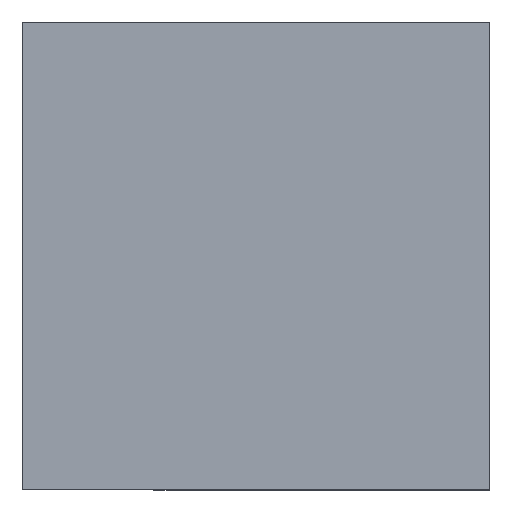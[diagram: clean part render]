
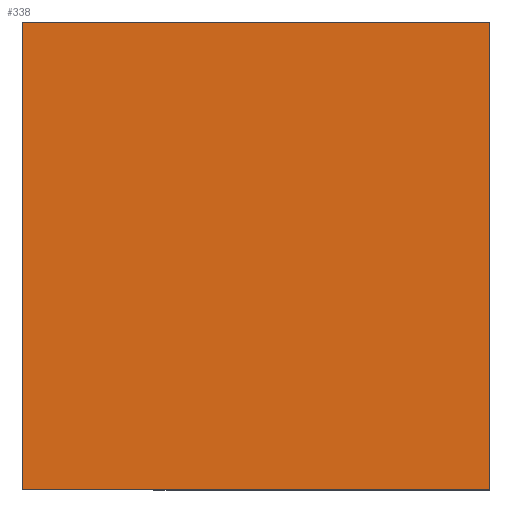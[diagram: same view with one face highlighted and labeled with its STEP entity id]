
A CAD part, top view. The second image highlights one B-rep face of the part: STEP entity #338.
In plain terms, the highlighted planar face has unit normal (0, 0, 1).
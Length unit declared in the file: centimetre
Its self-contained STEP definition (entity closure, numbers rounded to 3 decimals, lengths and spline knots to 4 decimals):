
#7 = CARTESIAN_POINT ( 'NONE',  ( 0., 1000., 1000. ) ) ;
#13 = CARTESIAN_POINT ( 'NONE',  ( 0., 1000., 1000. ) ) ;
#33 = AXIS2_PLACEMENT_3D ( 'NONE', #328, #168, #291 ) ;
#40 = LINE ( 'NONE', #13, #317 ) ;
#51 = CARTESIAN_POINT ( 'NONE',  ( 1000., 1000., 1000. ) ) ;
#59 = VECTOR ( 'NONE', #183, 100. ) ;
#70 = CARTESIAN_POINT ( 'NONE',  ( 1000., 0., 1000. ) ) ;
#83 = LINE ( 'NONE', #214, #59 ) ;
#107 = VECTOR ( 'NONE', #135, 100. ) ;
#111 = EDGE_LOOP ( 'NONE', ( #302, #313, #190, #149 ) ) ;
#135 = DIRECTION ( 'NONE',  ( 0., 1., 0. ) ) ;
#149 = ORIENTED_EDGE ( 'NONE', *, *, #194, .T. ) ;
#168 = DIRECTION ( 'NONE',  ( 0., 0., 1. ) ) ;
#170 = PLANE ( 'NONE',  #33 ) ;
#183 = DIRECTION ( 'NONE',  ( -1., 0., 0. ) ) ;
#190 = ORIENTED_EDGE ( 'NONE', *, *, #283, .T. ) ;
#194 = EDGE_CURVE ( 'NONE', #284, #223, #83, .T. ) ;
#200 = LINE ( 'NONE', #274, #257 ) ;
#208 = CARTESIAN_POINT ( 'NONE',  ( 1000., 1000., 1000. ) ) ;
#214 = CARTESIAN_POINT ( 'NONE',  ( 0., 1000., 1000. ) ) ;
#223 = VERTEX_POINT ( 'NONE', #7 ) ;
#245 = EDGE_CURVE ( 'NONE', #251, #333, #200, .T. ) ;
#251 = VERTEX_POINT ( 'NONE', #262 ) ;
#257 = VECTOR ( 'NONE', #364, 100. ) ;
#262 = CARTESIAN_POINT ( 'NONE',  ( 0., 0., 1000. ) ) ;
#274 = CARTESIAN_POINT ( 'NONE',  ( 0., 0., 1000. ) ) ;
#278 = EDGE_CURVE ( 'NONE', #223, #251, #40, .T. ) ;
#283 = EDGE_CURVE ( 'NONE', #333, #284, #385, .T. ) ;
#284 = VERTEX_POINT ( 'NONE', #51 ) ;
#291 = DIRECTION ( 'NONE',  ( 1., 0., 0. ) ) ;
#302 = ORIENTED_EDGE ( 'NONE', *, *, #278, .T. ) ;
#313 = ORIENTED_EDGE ( 'NONE', *, *, #245, .T. ) ;
#317 = VECTOR ( 'NONE', #331, 100. ) ;
#328 = CARTESIAN_POINT ( 'NONE',  ( 0., 0., 1000. ) ) ;
#331 = DIRECTION ( 'NONE',  ( 0., -1., 0. ) ) ;
#333 = VERTEX_POINT ( 'NONE', #70 ) ;
#338 = ADVANCED_FACE ( 'NONE', ( #357 ), #170, .T. ) ;
#357 = FACE_OUTER_BOUND ( 'NONE', #111, .T. ) ;
#364 = DIRECTION ( 'NONE',  ( 1., 0., 0. ) ) ;
#385 = LINE ( 'NONE', #208, #107 ) ;
